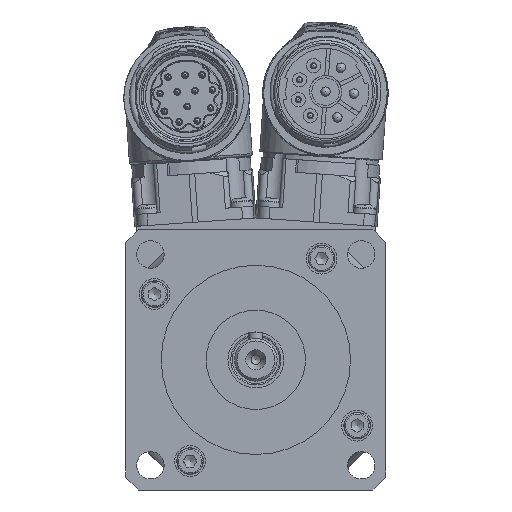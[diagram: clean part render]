
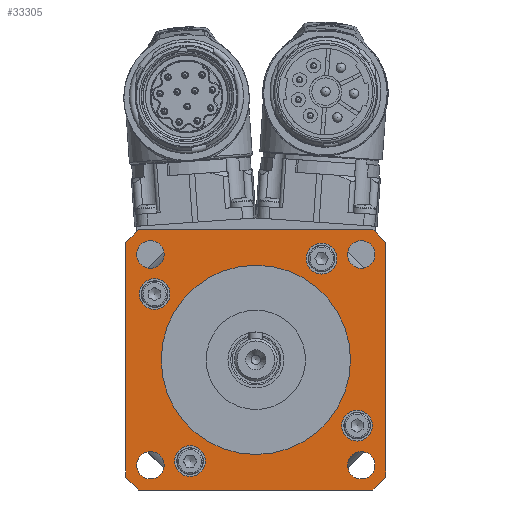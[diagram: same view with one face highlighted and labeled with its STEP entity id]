
A CAD part, left-side view. The second image highlights one B-rep face of the part: STEP entity #33305.
In plain terms, the highlighted planar face has unit normal (-1, 0, 0).
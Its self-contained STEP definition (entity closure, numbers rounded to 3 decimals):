
#1439=FACE_BOUND('',#4248,.T.);
#1440=FACE_BOUND('',#4249,.T.);
#1441=FACE_BOUND('',#4250,.T.);
#1442=FACE_BOUND('',#4251,.T.);
#1443=FACE_BOUND('',#4252,.T.);
#1444=FACE_BOUND('',#4253,.T.);
#1445=FACE_BOUND('',#4254,.T.);
#1446=FACE_BOUND('',#4255,.T.);
#1447=FACE_BOUND('',#4256,.T.);
#1713=PLANE('',#35689);
#2341=FACE_OUTER_BOUND('',#4247,.T.);
#4247=EDGE_LOOP('',(#21096,#21097,#21098,#21099,#21100,#21101,#21102,#21103));
#4248=EDGE_LOOP('',(#21104));
#4249=EDGE_LOOP('',(#21105));
#4250=EDGE_LOOP('',(#21106));
#4251=EDGE_LOOP('',(#21107));
#4252=EDGE_LOOP('',(#21108));
#4253=EDGE_LOOP('',(#21109));
#4254=EDGE_LOOP('',(#21110));
#4255=EDGE_LOOP('',(#21111));
#4256=EDGE_LOOP('',(#21112,#21113));
#6543=CIRCLE('',#35623,37.);
#6545=CIRCLE('',#35626,37.);
#6557=CIRCLE('',#35642,2.9);
#6558=CIRCLE('',#35644,2.9);
#6559=CIRCLE('',#35646,2.9);
#6560=CIRCLE('',#35648,2.9);
#6562=CIRCLE('',#35652,3.25);
#6566=CIRCLE('',#35659,3.25);
#6570=CIRCLE('',#35666,3.25);
#6574=CIRCLE('',#35673,3.25);
#6577=CIRCLE('',#35678,37.);
#6578=CIRCLE('',#35681,37.);
#6581=CIRCLE('',#35687,20.);
#6582=CIRCLE('',#35688,20.);
#8810=LINE('',#50176,#10505);
#8812=LINE('',#50179,#10507);
#8826=LINE('',#50254,#10521);
#8829=LINE('',#50261,#10524);
#10505=VECTOR('',#40145,10.);
#10507=VECTOR('',#40149,10.);
#10521=VECTOR('',#40241,10.);
#10524=VECTOR('',#40250,10.);
#12282=VERTEX_POINT('',#50130);
#12283=VERTEX_POINT('',#50131);
#12286=VERTEX_POINT('',#50139);
#12287=VERTEX_POINT('',#50140);
#12302=VERTEX_POINT('',#50175);
#12303=VERTEX_POINT('',#50181);
#12304=VERTEX_POINT('',#50185);
#12305=VERTEX_POINT('',#50189);
#12306=VERTEX_POINT('',#50193);
#12308=VERTEX_POINT('',#50201);
#12312=VERTEX_POINT('',#50214);
#12316=VERTEX_POINT('',#50227);
#12320=VERTEX_POINT('',#50240);
#12323=VERTEX_POINT('',#50249);
#12324=VERTEX_POINT('',#50253);
#12325=VERTEX_POINT('',#50257);
#12328=VERTEX_POINT('',#50268);
#12329=VERTEX_POINT('',#50270);
#15659=EDGE_CURVE('',#12282,#12283,#6543,.T.);
#15663=EDGE_CURVE('',#12286,#12287,#6545,.T.);
#15681=EDGE_CURVE('',#12302,#12286,#8810,.T.);
#15683=EDGE_CURVE('',#12287,#12282,#8812,.T.);
#15684=EDGE_CURVE('',#12303,#12303,#6557,.T.);
#15686=EDGE_CURVE('',#12304,#12304,#6558,.T.);
#15688=EDGE_CURVE('',#12305,#12305,#6559,.T.);
#15690=EDGE_CURVE('',#12306,#12306,#6560,.T.);
#15694=EDGE_CURVE('',#12308,#12308,#6562,.T.);
#15700=EDGE_CURVE('',#12312,#12312,#6566,.T.);
#15706=EDGE_CURVE('',#12316,#12316,#6570,.T.);
#15712=EDGE_CURVE('',#12320,#12320,#6574,.T.);
#15716=EDGE_CURVE('',#12323,#12302,#6577,.T.);
#15718=EDGE_CURVE('',#12324,#12323,#8826,.T.);
#15720=EDGE_CURVE('',#12325,#12324,#6578,.T.);
#15722=EDGE_CURVE('',#12283,#12325,#8829,.T.);
#15726=EDGE_CURVE('',#12329,#12328,#6581,.T.);
#15727=EDGE_CURVE('',#12328,#12329,#6582,.T.);
#21096=ORIENTED_EDGE('',*,*,#15681,.F.);
#21097=ORIENTED_EDGE('',*,*,#15716,.F.);
#21098=ORIENTED_EDGE('',*,*,#15718,.F.);
#21099=ORIENTED_EDGE('',*,*,#15720,.F.);
#21100=ORIENTED_EDGE('',*,*,#15722,.F.);
#21101=ORIENTED_EDGE('',*,*,#15659,.F.);
#21102=ORIENTED_EDGE('',*,*,#15683,.F.);
#21103=ORIENTED_EDGE('',*,*,#15663,.F.);
#21104=ORIENTED_EDGE('',*,*,#15712,.F.);
#21105=ORIENTED_EDGE('',*,*,#15706,.F.);
#21106=ORIENTED_EDGE('',*,*,#15700,.F.);
#21107=ORIENTED_EDGE('',*,*,#15694,.F.);
#21108=ORIENTED_EDGE('',*,*,#15690,.F.);
#21109=ORIENTED_EDGE('',*,*,#15688,.F.);
#21110=ORIENTED_EDGE('',*,*,#15686,.F.);
#21111=ORIENTED_EDGE('',*,*,#15684,.F.);
#21112=ORIENTED_EDGE('',*,*,#15726,.T.);
#21113=ORIENTED_EDGE('',*,*,#15727,.T.);
#33305=ADVANCED_FACE('',(#2341,#1439,#1440,#1441,#1442,#1443,#1444,#1445,
#1446,#1447),#1713,.F.);
#35623=AXIS2_PLACEMENT_3D('',#50132,#40103,#40104);
#35626=AXIS2_PLACEMENT_3D('',#50141,#40111,#40112);
#35642=AXIS2_PLACEMENT_3D('',#50182,#40152,#40153);
#35644=AXIS2_PLACEMENT_3D('',#50186,#40157,#40158);
#35646=AXIS2_PLACEMENT_3D('',#50190,#40162,#40163);
#35648=AXIS2_PLACEMENT_3D('',#50194,#40167,#40168);
#35652=AXIS2_PLACEMENT_3D('',#50202,#40177,#40178);
#35659=AXIS2_PLACEMENT_3D('',#50215,#40193,#40194);
#35666=AXIS2_PLACEMENT_3D('',#50228,#40209,#40210);
#35673=AXIS2_PLACEMENT_3D('',#50241,#40225,#40226);
#35678=AXIS2_PLACEMENT_3D('',#50250,#40236,#40237);
#35681=AXIS2_PLACEMENT_3D('',#50258,#40245,#40246);
#35687=AXIS2_PLACEMENT_3D('',#50271,#40260,#40261);
#35688=AXIS2_PLACEMENT_3D('',#50272,#40262,#40263);
#35689=AXIS2_PLACEMENT_3D('',#50273,#40264,#40265);
#40103=DIRECTION('center_axis',(1.,0.,0.));
#40104=DIRECTION('ref_axis',(0.,0.,
-1.));
#40111=DIRECTION('center_axis',(1.,0.,0.));
#40112=DIRECTION('ref_axis',(0.,0.,
-1.));
#40145=DIRECTION('',(0.,0.,1.));
#40149=DIRECTION('',(0.,-1.,0.));
#40152=DIRECTION('center_axis',(-1.,0.,0.));
#40153=DIRECTION('ref_axis',(0.,1.,0.));
#40157=DIRECTION('center_axis',(-1.,0.,0.));
#40158=DIRECTION('ref_axis',(0.,0.,
1.));
#40162=DIRECTION('center_axis',(-1.,0.,0.));
#40163=DIRECTION('ref_axis',(0.,-1.,0.));
#40167=DIRECTION('center_axis',(-1.,0.,0.));
#40168=DIRECTION('ref_axis',(0.,0.,
-1.));
#40177=DIRECTION('center_axis',(-1.,0.,0.));
#40178=DIRECTION('ref_axis',(0.,1.,0.));
#40193=DIRECTION('center_axis',(-1.,0.,0.));
#40194=DIRECTION('ref_axis',(0.,0.,
1.));
#40209=DIRECTION('center_axis',(-1.,0.,0.));
#40210=DIRECTION('ref_axis',(0.,-1.,0.));
#40225=DIRECTION('center_axis',(-1.,0.,0.));
#40226=DIRECTION('ref_axis',(0.,0.,
-1.));
#40236=DIRECTION('center_axis',(1.,0.,0.));
#40237=DIRECTION('ref_axis',(0.,0.,
-1.));
#40241=DIRECTION('',(0.,1.,0.));
#40245=DIRECTION('center_axis',(1.,0.,0.));
#40246=DIRECTION('ref_axis',(0.,0.,
-1.));
#40250=DIRECTION('',(0.,0.,-1.));
#40260=DIRECTION('center_axis',(1.,0.,0.));
#40261=DIRECTION('ref_axis',(0.,0.,
-1.));
#40262=DIRECTION('center_axis',(1.,0.,0.));
#40263=DIRECTION('ref_axis',(0.,0.,
-1.));
#40264=DIRECTION('center_axis',(1.,0.,0.));
#40265=DIRECTION('ref_axis',(0.,0.,
-1.));
#50130=CARTESIAN_POINT('',(-69.2,-24.754,27.5));
#50131=CARTESIAN_POINT('',(-69.2,-27.5,24.754));
#50132=CARTESIAN_POINT('Origin',(-69.2,0.,0.));
#50139=CARTESIAN_POINT('',(-69.2,27.5,24.754));
#50140=CARTESIAN_POINT('',(-69.2,24.754,27.5));
#50141=CARTESIAN_POINT('Origin',(-69.2,0.,0.));
#50175=CARTESIAN_POINT('',(-69.2,27.5,-24.754));
#50176=CARTESIAN_POINT('',(-69.2,27.5,23.5));
#50179=CARTESIAN_POINT('',(-69.2,-13.5,27.5));
#50181=CARTESIAN_POINT('',(-69.2,-25.174,-22.274));
#50182=CARTESIAN_POINT('Origin',(-69.2,-22.274,-22.274));
#50185=CARTESIAN_POINT('',(-69.2,22.274,-25.174));
#50186=CARTESIAN_POINT('Origin',(-69.2,22.274,-22.274));
#50189=CARTESIAN_POINT('',(-69.2,25.174,22.274));
#50190=CARTESIAN_POINT('Origin',(-69.2,22.274,22.274));
#50193=CARTESIAN_POINT('',(-69.2,-22.274,25.174));
#50194=CARTESIAN_POINT('Origin',(-69.2,-22.274,22.274));
#50201=CARTESIAN_POINT('',(-69.2,10.65,-21.4));
#50202=CARTESIAN_POINT('Origin',(-69.2,13.9,-21.4));
#50214=CARTESIAN_POINT('',(-69.2,21.4,10.65));
#50215=CARTESIAN_POINT('Origin',(-69.2,21.4,13.9));
#50227=CARTESIAN_POINT('',(-69.2,-10.65,21.4));
#50228=CARTESIAN_POINT('Origin',(-69.2,-13.9,21.4));
#50240=CARTESIAN_POINT('',(-69.2,-21.4,-10.65));
#50241=CARTESIAN_POINT('Origin',(-69.2,-21.4,-13.9));
#50249=CARTESIAN_POINT('',(-69.2,24.754,-27.5));
#50250=CARTESIAN_POINT('Origin',(-69.2,0.,0.));
#50253=CARTESIAN_POINT('',(-69.2,-24.754,-27.5));
#50254=CARTESIAN_POINT('',(-69.2,13.5,-27.5));
#50257=CARTESIAN_POINT('',(-69.2,-27.5,-24.754));
#50258=CARTESIAN_POINT('Origin',(-69.2,0.,0.));
#50261=CARTESIAN_POINT('',(-69.2,-27.5,-3.5));
#50268=CARTESIAN_POINT('',(-69.2,0.,-20.));
#50270=CARTESIAN_POINT('',(-69.2,0.,20.));
#50271=CARTESIAN_POINT('Origin',(-69.2,0.,0.));
#50272=CARTESIAN_POINT('Origin',(-69.2,0.,0.));
#50273=CARTESIAN_POINT('Origin',(-69.2,0.,20.));
